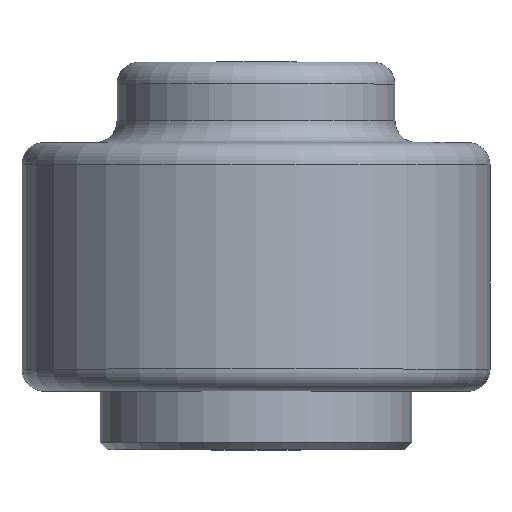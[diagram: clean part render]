
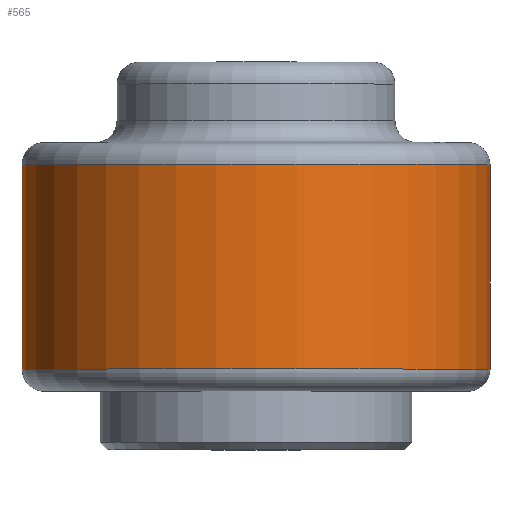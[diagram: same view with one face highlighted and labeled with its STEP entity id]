
A CAD part, top view. The second image highlights one B-rep face of the part: STEP entity #565.
In plain terms, the highlighted cylindrical face has radius 32 mm (diameter 64 mm), a full revolution.
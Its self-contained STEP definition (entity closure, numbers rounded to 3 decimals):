
#113 = DIRECTION ( 'NONE',  ( 0., 1., 0. ) ) ;
#238 = DIRECTION ( 'NONE',  ( 0., 0., -1. ) ) ;
#565 = ADVANCED_FACE ( 'NONE', ( #2167, #4305 ), #2717, .T. ) ;
#1223 = ORIENTED_EDGE ( 'NONE', *, *, #1682, .T. ) ;
#1251 = VERTEX_POINT ( 'NONE', #6475 ) ;
#1485 = CARTESIAN_POINT ( 'NONE',  ( 0., -21.404, 0. ) ) ;
#1544 = EDGE_LOOP ( 'NONE', ( #1223 ) ) ;
#1682 = EDGE_CURVE ( 'NONE', #1251, #1251, #2903, .T. ) ;
#2167 = FACE_OUTER_BOUND ( 'NONE', #1544, .T. ) ;
#2717 = CYLINDRICAL_SURFACE ( 'NONE', #6221, 32. ) ;
#2903 = CIRCLE ( 'NONE', #4129, 32. ) ;
#3202 = DIRECTION ( 'NONE',  ( 0., 1., 0. ) ) ;
#3632 = EDGE_CURVE ( 'NONE', #4949, #4949, #4243, .T. ) ;
#3793 = CARTESIAN_POINT ( 'NONE',  ( 0., 23.509, 0. ) ) ;
#4129 = AXIS2_PLACEMENT_3D ( 'NONE', #1485, #3202, #5300 ) ;
#4243 = CIRCLE ( 'NONE', #4900, 32. ) ;
#4305 = FACE_OUTER_BOUND ( 'NONE', #6518, .T. ) ;
#4369 = DIRECTION ( 'NONE',  ( 0., -1., 0. ) ) ;
#4900 = AXIS2_PLACEMENT_3D ( 'NONE', #5438, #4369, #238 ) ;
#4949 = VERTEX_POINT ( 'NONE', #5016 ) ;
#5016 = CARTESIAN_POINT ( 'NONE',  ( 0., 6.596, -32. ) ) ;
#5300 = DIRECTION ( 'NONE',  ( 0., 0., 1. ) ) ;
#5307 = DIRECTION ( 'NONE',  ( 0., 0., 1. ) ) ;
#5438 = CARTESIAN_POINT ( 'NONE',  ( 0., 6.596, 0. ) ) ;
#6221 = AXIS2_PLACEMENT_3D ( 'NONE', #3793, #113, #5307 ) ;
#6243 = ORIENTED_EDGE ( 'NONE', *, *, #3632, .T. ) ;
#6475 = CARTESIAN_POINT ( 'NONE',  ( 0., -21.404, 32. ) ) ;
#6518 = EDGE_LOOP ( 'NONE', ( #6243 ) ) ;
